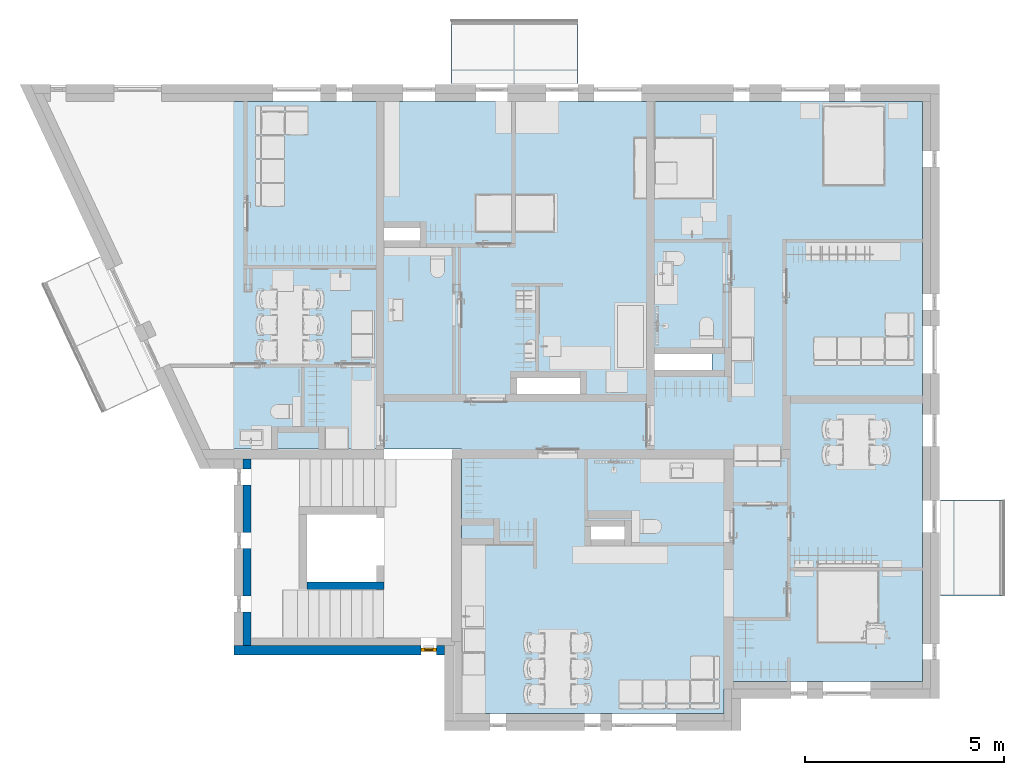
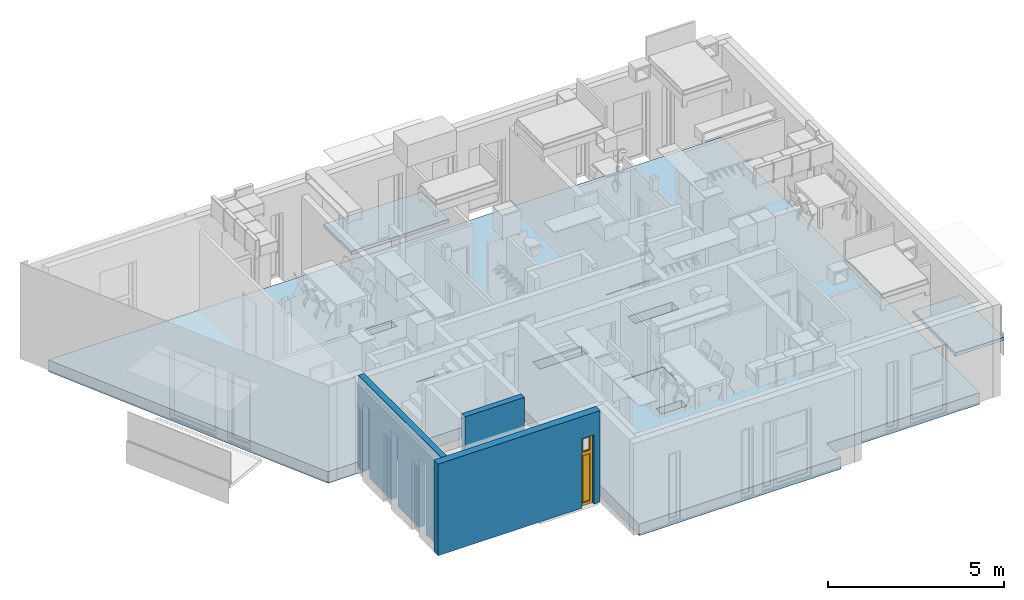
# One storey, part 2 of 68: 3 slabs, 3 walls, 1 window, 14 openings.
"""IFC2X3 building model written with IfcOpenShell, lengths in millimetres."""

from ifc_helpers import new_model, entity, si_unit, converted_unit, direction, frame, frame_2d, origin, origin_2d_with_axis, place, context, subcontext, project, spatial, polyline, rectangle, outline, extrude, clip, bounded_halfspace, faceted_brep, source, transform, mapped, material, material_list, layer, layer_set, layer_usage, type_object, type_shapes, element, fill, save


model = new_model("IFC2X3")

# Units and contexts
model_context = context("Model", 3, precision=0.01, world=origin(), true_north=direction((6.123233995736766e-17, 1.0)))
plan_context = context("Plan", 3, precision=0.01, world=origin(), true_north=direction((6.123233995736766e-17, 1.0)))
body_context = subcontext(model_context, "Body", "Model", "MODEL_VIEW")
ifc_project = project(units=[si_unit("LENGTHUNIT", "METRE", prefix="MILLI"), converted_unit("PLANEANGLEUNIT", "DEGREE", entity("IfcPlaneAngleMeasure", 0.017453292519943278), si_unit("PLANEANGLEUNIT", "RADIAN"), dimensions=[0, 0, 0, 0, 0, 0, 0]), si_unit("AREAUNIT", "SQUARE_METRE")], contexts=[model_context, plan_context])

# Site, building, storey
site_placement = place(None, origin())
site = spatial("IfcSite", under=ifc_project, at=site_placement, Name="Default", CompositionType="ELEMENT")
building_placement = place(site_placement, origin())
building = spatial("IfcBuilding", under=site, at=building_placement, CompositionType="ELEMENT")
storey_placement = place(building_placement, frame((0.0, 0.0, 6295.0)))
storey = spatial("IfcBuildingStorey", under=building, at=storey_placement, Name="3K", CompositionType="ELEMENT", Elevation=6294.999999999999)

# Slab, openings
ifc_material_1 = material(Name="_K. Betoon. Armeeritud. Kohtvalu")
ifc_layer_1 = layer(ifc_material_1, 80.0)
ifc_material_2 = material(Name="_K. Soojustus. Mineraalvill")
ifc_layer_2 = layer(ifc_material_2, 30.0)
ifc_material_3 = material(Name="_K. Soojustus. EPS")
ifc_layer_3 = layer(ifc_material_3, 25.0)
ifc_material_4 = material(Name="_K. Betoon. Armeeritud. Monteeritav")
ifc_layer_4 = layer(ifc_material_4, 265.0)
ifc_layer_set_1 = layer_set([ifc_layer_1, ifc_layer_2, ifc_layer_3, ifc_layer_4], Name="Floor:VL-01-A")
ifc_layer_usage_1 = layer_usage(ifc_layer_set_1, "AXIS3", "POSITIVE", 0.0)
slab_type_1 = type_object("IfcSlabType", Name="Floor:VL-01-A", PredefinedType="FLOOR", material=ifc_layer_set_1)
slab_1_placement = place(storey_placement, frame((-5142.069995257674, 0.0, -420.0)))
slab_1 = element("IfcSlab", 1, at=slab_1_placement, inside=storey, type_object=slab_type_1, material=ifc_layer_usage_1, Name="Floor:VL-01-A", ObjectType="Floor:VL-01-A", PredefinedType="FLOOR", context=body_context, shape_type="SweptSolid", body=[
    extrude(outline(polyline([(-11021.034997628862, 7700.0), (-11021.034997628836, -6900.0), (-6021.034997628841, -6900.0), (-6021.034997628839, -7700.0), (578.9699415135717, -7700.0), (578.9699415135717, -1050.0000405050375), (6919.47248114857, -1050.0000405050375), (11021.034997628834, 7700.0), (-11021.034997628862, 7700.0)])), frame((11021.034997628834, 7700.0, 400.0), z_axis=(0.0, 0.0, -1.0), x_axis=(-1.0, 0.0, 0.0)), (0.0, 0.0, 1.0), 400.0),
])
opening_1_placement = place(slab_1_placement, origin())
element("IfcOpeningElement", 2, at=opening_1_placement, cuts=slab_1, Name="Floor:VL-01-A", ObjectType="Opening", context=body_context, shape_type="SweptSolid", body=[
    extrude(rectangle(XDim=319.99999999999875, YDim=839.9999999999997, at=origin_2d_with_axis()), frame((14122.069995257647, 4540.0, 0.0), z_axis=(0.0, 0.0, 1.0), x_axis=(0.0, 1.0, 0.0)), (0.0, 0.0, 1.0), 400.0),
])
opening_2_placement = place(slab_1_placement, origin())
element("IfcOpeningElement", 3, at=opening_2_placement, cuts=slab_1, Name="Floor:VL-01-A", ObjectType="Opening", context=body_context, shape_type="SweptSolid", body=[
    extrude(rectangle(XDim=400.0, YDim=1589.999999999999, at=frame_2d((0.0, 5.684341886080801e-13), x_axis=(1.0, 0.0))), frame((12627.069995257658, 8240.0, 0.0), z_axis=(0.0, 0.0, 1.0), x_axis=(0.0, 1.0, 0.0)), (0.0, 0.0, 1.0), 400.0),
])
opening_3_placement = place(slab_1_placement, origin())
element("IfcOpeningElement", 4, at=opening_3_placement, cuts=slab_1, Name="Floor:VL-01-A", ObjectType="Opening", context=body_context, shape_type="SweptSolid", body=[
    extrude(rectangle(XDim=400.0, YDim=1449.9999999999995, at=origin_2d_with_axis()), frame((16017.069995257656, 8840.0, 0.0), z_axis=(0.0, 0.0, 1.0), x_axis=(0.0, 1.0, 0.0)), (0.0, 0.0, 1.0), 400.0),
])
opening_4_placement = place(slab_1_placement, origin())
element("IfcOpeningElement", 5, at=opening_4_placement, cuts=slab_1, Name="Floor:VL-01-A", ObjectType="Opening", context=body_context, shape_type="SweptSolid", body=[
    extrude(rectangle(XDim=310.000000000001, YDim=900.0000000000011, at=frame_2d((1.0942358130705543e-12, 0.0), x_axis=(1.0, 0.0))), frame((8942.06999525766, 12055.0, 0.0), z_axis=(0.0, 0.0, 1.0), x_axis=(0.0, 1.0, 0.0)), (0.0, 0.0, 1.0), 400.0),
])
opening_5_placement = place(slab_1_placement, frame((5142.069995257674, 0.0, 400.0)))
element("IfcOpeningElement", 6, at=opening_5_placement, cuts=slab_1, Name="Floor:VL-01-A", ObjectType="Opening", context=body_context, shape_type="SweptSolid", body=[
    extrude(outline(polyline([(-466.75161625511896, -6.916666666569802), (1250.2548487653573, -6.916666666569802), (-316.7516162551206, 6.916666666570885), (-466.75161625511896, 6.916666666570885), (-466.75161625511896, -6.916666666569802)])), frame((3811.7451512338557, 8040.0, -6.916666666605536), z_axis=(0.0, 1.0, 0.0), x_axis=(1.0, 0.0, 0.0)), (0.0, 0.0, 1.0), 1200.0),
])
opening_6_placement = place(slab_1_placement, frame((5142.069995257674, 0.0, 400.0)))
element("IfcOpeningElement", 7, at=opening_6_placement, cuts=slab_1, Name="Floor:VL-01-A", ObjectType="Opening", context=body_context, shape_type="SweptSolid", body=[
    extrude(outline(polyline([(-465.4999999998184, -6.916666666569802), (1246.4999999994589, -6.916666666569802), (-315.49999999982, 6.916666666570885), (-465.4999999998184, 6.916666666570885), (-465.4999999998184, -6.916666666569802)])), frame((10615.499999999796, 9210.0, -6.916666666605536), z_axis=(0.0, 1.0, 0.0), x_axis=(1.0, 0.0, 0.0)), (0.0, 0.0, 1.0), 1079.9999999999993),
])
opening_7_placement = place(slab_1_placement, frame((5142.069995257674, 0.0, 400.0)))
element("IfcOpeningElement", 8, at=opening_7_placement, cuts=slab_1, Name="Floor:VL-01-A", ObjectType="Opening", context=body_context, shape_type="SweptSolid", body=[
    extrude(outline(polyline([(-361.9999898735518, -6.916666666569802), (935.999969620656, -6.916666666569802), (-211.9999898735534, 6.916666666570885), (-361.9999898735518, 6.916666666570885), (-361.9999898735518, -6.916666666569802)])), frame((8483.0, 6037.9999696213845, -6.916666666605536), z_axis=(1.0, 0.0, 0.0), x_axis=(0.0, -1.0, 0.0)), (0.0, 0.0, 1.0), 1299.999999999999),
])

# Slabs
slab_type_2 = type_object("IfcSlabType", Name="HR_Slab_Balcony_v3:Default", PredefinedType="FLOOR", material=ifc_material_4)
slab_2_placement = place(storey_placement, frame((0.0, 0.0, -225.50023803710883)))
element("IfcSlab", 9, at=slab_2_placement, inside=storey, type_object=slab_type_2, Name="HR_Slab_Balcony_v3:Default", ObjectType="HR_Slab_Balcony_v3:Default", PredefinedType="FLOOR", context=body_context, shape_type="SweptSolid", body=[
    extrude(outline(polyline([(-636.2215697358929, 62.61096566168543), (-637.2171002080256, -42.38431479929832), (-604.7185610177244, -42.69245518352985), (-594.6241980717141, -32.78771708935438), (-579.6248722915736, -32.92993572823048), (-569.7201341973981, -43.02429867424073), (944.7117920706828, -57.38364057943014), (945.849541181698, 62.610965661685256), (865.8531370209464, 63.36946506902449), (865.7119652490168, 62.61096566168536), (-636.2215697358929, 62.61096566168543)])), frame((5031.41658844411, 16795.213397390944, 48.424019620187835), z_axis=(-1.0, 0.0, 0.0), x_axis=(0.0, -0.9999550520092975, 0.00948124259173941)), (0.0, 0.0, -1.0), 3194.999999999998),
])
slab_3_placement = place(storey_placement, frame((0.0, 0.0, -225.50023803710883)))
element("IfcSlab", 10, at=slab_3_placement, inside=storey, type_object=slab_type_2, Name="HR_Slab_Balcony_v3:Default", ObjectType="HR_Slab_Balcony_v3:Default", PredefinedType="FLOOR", context=body_context, shape_type="SweptSolid", body=[
    extrude(outline(polyline([(-945.2133973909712, -71.57598037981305), (-865.2133973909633, -71.57598037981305), (-865.0794234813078, -70.81617658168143), (636.7866026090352, -56.575980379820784), (636.7866026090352, 48.42401962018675), (604.2866026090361, 48.42401962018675), (594.2866026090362, 38.42401962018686), (579.2866026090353, 38.42401962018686), (569.2866026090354, 48.42401962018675), (-945.2133973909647, 48.42401962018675), (-945.2133973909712, -71.57598037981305)])), frame((18295.213397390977, 2952.68658823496, 48.42401962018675), z_axis=(0.0, 1.0, 0.0), x_axis=(1.0, 0.0, 0.0)), (0.0, 0.0, 1.0), 2418.0000000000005),
])

# Wall, openings
ifc_material_5 = material(Name="_K. Väisviimistlus. Krohv. Valge")
ifc_layer_5 = layer(ifc_material_5, 5.0)
ifc_material_6 = material(Name="_K. Müüritis. Väikeplokk. Betoon-õõnesplokk")
ifc_layer_6 = layer(ifc_material_6, 190.00000000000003)
ifc_layer_7 = layer(ifc_material_5, 5.0)
ifc_layer_set_2 = layer_set([ifc_layer_5, ifc_layer_6, ifc_layer_7], Name="Basic Wall:SS-01. 190")
ifc_layer_usage_2 = layer_usage(ifc_layer_set_2, "AXIS2", "NEGATIVE", 100.00000000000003)
wall_type_1 = type_object("IfcWallType", Name="Basic Wall:SS-01. 190", PredefinedType="STANDARD", material=ifc_layer_set_2)
wall_1_placement = place(storey_placement, frame((-100.0, 1710.0, 0.0), z_axis=(0.0, 0.0, 1.0), x_axis=(0.0, 1.0, 0.0)))
wall_1 = element("IfcWallStandardCase", 11, at=wall_1_placement, inside=storey, type_object=wall_type_1, material=ifc_layer_usage_2, Name="Basic Wall:SS-01. 190", ObjectType="Basic Wall:SS-01. 190", context=body_context, shape_type="Clipping", body=[
    clip(clip(extrude(rectangle(XDim=4694.999959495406, YDim=200.00000000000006, at=frame_2d((2347.499979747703, 2.1316282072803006e-14), x_axis=(-1.0, 0.0))), origin(), (0.0, 0.0, 1.0), 3169.999999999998), bounded_halfspace(frame((4694.999959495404, 90.0, 2974.999801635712), z_axis=(0.0, -1.0, 0.0), x_axis=(1.0, 0.0, 0.0)), True, frame((4694.999959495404, 90.0, 2974.999801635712), z_axis=(0.0, -1.0, 0.0), x_axis=(1.0, 0.0, 0.0)), polyline([(0.0, 0.0), (0.0, 195.000198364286), (-904.9999594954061, 195.000198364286), (-1304.9999594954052, 195.000198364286), (-2504.999959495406, 195.000198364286), (-2904.999959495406, 195.000198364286), (-4104.999959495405, 195.000198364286), (-4504.999959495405, 195.000198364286), (-4694.999959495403, 195.000198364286), (-4694.999959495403, 0.0), (0.0, 0.0)]))), bounded_halfspace(frame((0.0, 90.0, 2974.999801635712), z_axis=(0.0, 0.0, -1.0), x_axis=(0.0, 1.0, 0.0)), True, frame((0.0, 90.0, 2974.999801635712), z_axis=(0.0, 0.0, -1.0), x_axis=(0.0, 1.0, 0.0)), polyline([(0.0, 0.0), (10.0, 0.0), (10.0, 4694.999959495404), (0.0, 4694.999959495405), (0.0, 0.0)]))),
])
opening_8_placement = place(wall_1_placement, frame((-1710.0, -100.0, 0.0)))
element("IfcOpeningElement", 12, at=opening_8_placement, cuts=wall_1, Name="Basic Wall:SS-01. 190", ObjectType="Opening", context=body_context, shape_type="Brep", body=[
    faceted_brep([(2949.999959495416, 450.0, 2400.0), (2949.9999594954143, -244.0, 2400.0), (2949.9999594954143, -244.0, 0.0), (2949.999959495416, 340.0, 0.0), (2949.999959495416, 350.0, 0.0), (2949.999959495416, 450.0, 0.0), (2549.999959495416, 450.0, 2400.0), (2549.9999594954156, -244.0, 2400.0), (2549.999959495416, 450.0, 0.0), (2549.999959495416, 350.0, 0.0), (2549.999959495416, 340.0, 0.0), (2549.9999594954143, -244.0, 0.0)], [[[0, 1, 2, 3, 4, 5]], [[6, 7, 1, 0]], [[8, 9, 10, 11, 7, 6]], [[5, 4, 3, 2, 11, 10, 9, 8]], [[6, 0, 5, 8]], [[7, 11, 2, 1]]]),
])
opening_9_placement = place(wall_1_placement, frame((-1710.0, -100.0, 0.0)))
element("IfcOpeningElement", 13, at=opening_9_placement, cuts=wall_1, Name="Basic Wall:SS-01. 190", ObjectType="Opening", context=body_context, shape_type="Brep", body=[
    faceted_brep([(4549.999959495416, 450.0, 2400.0), (4549.999959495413, -244.0, 2400.0), (4549.999959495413, -244.0, 0.0), (4549.999959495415, 340.0, 0.0), (4549.999959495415, 350.0, 0.0), (4549.999959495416, 450.0, 0.0), (4149.999959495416, 450.0, 2400.0), (4149.999959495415, -244.0, 2400.0), (4149.999959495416, 450.0, 0.0), (4149.999959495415, 350.0, 0.0), (4149.999959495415, 340.0, 0.0), (4149.999959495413, -244.0, 0.0)], [[[0, 1, 2, 3, 4, 5]], [[6, 7, 1, 0]], [[8, 9, 10, 11, 7, 6]], [[5, 4, 3, 2, 11, 10, 9, 8]], [[6, 0, 5, 8]], [[7, 11, 2, 1]]]),
])
opening_10_placement = place(wall_1_placement, frame((-1710.0, -100.0, 0.0)))
element("IfcOpeningElement", 14, at=opening_10_placement, cuts=wall_1, Name="Basic Wall:SS-01. 190", ObjectType="Opening", context=body_context, shape_type="Brep", body=[
    faceted_brep([(6149.999959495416, 450.0, 2400.0), (6149.999959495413, -244.0, 2400.0), (6149.999959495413, -244.0, 0.0), (6149.999959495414, 340.0, 0.0), (6149.999959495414, 350.0, 0.0), (6149.999959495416, 450.0, 0.0), (5749.999959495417, 450.0, 2400.0), (5749.999959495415, -244.0, 2400.0), (5749.999959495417, 450.0, 0.0), (5749.999959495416, 350.0, 0.0), (5749.999959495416, 340.0, 0.0), (5749.999959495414, -244.0, 0.0)], [[[0, 1, 2, 3, 4, 5]], [[6, 7, 1, 0]], [[8, 9, 10, 11, 7, 6]], [[5, 4, 3, 2, 11, 10, 9, 8]], [[6, 0, 5, 8]], [[7, 11, 2, 1]]]),
])
opening_11_placement = place(wall_1_placement, frame((-1710.0, -100.0, 3170.000076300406)))
element("IfcOpeningElement", 15, at=opening_11_placement, cuts=wall_1, Name="Basic Wall:SS-01. 190", ObjectType="Opening", context=body_context, shape_type="Brep", body=[
    faceted_brep([(2300.0, 450.0, 2400.0), (2300.0, -244.0, 2400.0), (2300.0, -244.0, 0.0), (2300.0, 340.0, 0.0), (2300.0, 350.0, 0.0), (2300.0, 450.0, 0.0), (1900.0, 450.0, 2400.0), (1900.0, -244.0, 2400.0), (1900.0, 450.0, 0.0), (1900.0, 350.0, 0.0), (1900.0, 340.0, 0.0), (1900.0, -244.0, 0.0)], [[[0, 1, 2, 3, 4, 5]], [[6, 7, 1, 0]], [[8, 9, 10, 11, 7, 6]], [[5, 4, 3, 2, 11, 10, 9, 8]], [[6, 0, 5, 8]], [[7, 11, 2, 1]]]),
])
opening_12_placement = place(wall_1_placement, frame((-1710.0, -100.0, 3170.000076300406)))
element("IfcOpeningElement", 16, at=opening_12_placement, cuts=wall_1, Name="Basic Wall:SS-01. 190", ObjectType="Opening", context=body_context, shape_type="Brep", body=[
    faceted_brep([(3900.0, 450.0, 2400.0), (3900.0, -244.0, 2400.0), (3900.0, -244.0, 0.0), (3900.0, 340.0, 0.0), (3900.0, 350.0, 0.0), (3900.0, 450.0, 0.0), (3500.0, 450.0, 2400.0), (3500.0, -244.0, 2400.0), (3500.0, 450.0, 0.0), (3500.0, 350.0, 0.0), (3500.0, 340.0, 0.0), (3500.0, -244.0, 0.0)], [[[0, 1, 2, 3, 4, 5]], [[6, 7, 1, 0]], [[8, 9, 10, 11, 7, 6]], [[5, 4, 3, 2, 11, 10, 9, 8]], [[6, 0, 5, 8]], [[7, 11, 2, 1]]]),
])
opening_13_placement = place(wall_1_placement, frame((-1710.0, -100.0, 3170.000076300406)))
element("IfcOpeningElement", 17, at=opening_13_placement, cuts=wall_1, Name="Basic Wall:SS-01. 190", ObjectType="Opening", context=body_context, shape_type="Brep", body=[
    faceted_brep([(5500.0, 450.0, 2400.0), (5500.0, -244.0, 2400.0), (5500.0, -244.0, 0.0), (5500.0, 340.0, 0.0), (5500.0, 350.0, 0.0), (5500.0, 450.0, 0.0), (5100.0, 450.0, 2400.0), (5100.0, -244.0, 2400.0), (5100.0, 450.0, 0.0), (5100.0, 350.0, 0.0), (5100.0, 340.0, 0.0), (5100.0, -244.0, 0.0)], [[[0, 1, 2, 3, 4, 5]], [[6, 7, 1, 0]], [[8, 9, 10, 11, 7, 6]], [[5, 4, 3, 2, 11, 10, 9, 8]], [[6, 0, 5, 8]], [[7, 11, 2, 1]]]),
])

# Wall
ifc_layer_8 = layer(ifc_material_6, 190.00000000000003)
ifc_layer_set_3 = layer_set([ifc_layer_8], Name="Basic Wall:Columbia 190mm")
ifc_layer_usage_3 = layer_usage(ifc_layer_set_3, "AXIS2", "NEGATIVE", 95.00000000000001)
wall_type_2 = type_object("IfcWallType", Name="Basic Wall:Columbia 190mm", PredefinedType="STANDARD", material=ifc_layer_set_3)
wall_2_placement = place(storey_placement, frame((3349.9935349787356, 3204.993855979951, 0.0), z_axis=(0.0, 0.0, 1.0), x_axis=(-1.0, 0.0, 0.0)))
element("IfcWallStandardCase", 18, at=wall_2_placement, inside=storey, type_object=wall_type_2, material=ifc_layer_usage_3, Name="Basic Wall:Columbia 190mm", ObjectType="Basic Wall:Columbia 190mm", context=body_context, shape_type="SweptSolid", body=[
    extrude(rectangle(XDim=1949.9999999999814, YDim=190.0000000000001, at=frame_2d((974.9999999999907, 0.0), x_axis=(-1.0, 0.0))), origin(), (0.0, 0.0, 1.0), 3169.999999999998),
])

# Wall, opening, window
ifc_layer_9 = layer(ifc_material_5, 10.0)
ifc_material_7 = material(Name="_K. Soojustus. EPS Silver")
ifc_layer_10 = layer(ifc_material_7, 230.0)
ifc_layer_set_4 = layer_set([ifc_layer_9, ifc_layer_10], Name="Basic Wall:VS-01")
ifc_layer_usage_4 = layer_usage(ifc_layer_set_4, "AXIS2", "NEGATIVE", 120.0)
wall_type_3 = type_object("IfcWallType", Name="Basic Wall:VS-01", PredefinedType="STANDARD", material=ifc_layer_set_4)
wall_3_placement = place(storey_placement, frame((4870.0, 1590.0, 0.0), z_axis=(0.0, 0.0, 1.0), x_axis=(-1.0, 0.0, 0.0)))
wall_3 = element("IfcWallStandardCase", 19, at=wall_3_placement, inside=storey, type_object=wall_type_3, material=ifc_layer_usage_4, Name="Basic Wall:VS-01", ObjectType="Basic Wall:VS-01", context=body_context, shape_type="SweptSolid", body=[
    extrude(rectangle(XDim=5300.000000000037, YDim=240.0000000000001, at=frame_2d((2650.0000000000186, -6.394884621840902e-14), x_axis=(-1.0, 0.0))), origin(), (0.0, 0.0, 1.0), 3169.999999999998),
])
opening_14_placement = place(wall_3_placement, frame((4870.0, 1590.0, 0.0), z_axis=(0.0, 0.0, 1.0), x_axis=(-1.0, 0.0, 0.0)))
opening_14 = element("IfcOpeningElement", 20, at=opening_14_placement, cuts=wall_3, Name="Basic Wall:VS-01", ObjectType="Opening", context=body_context, shape_type="Brep", body=[
    faceted_brep([(4270.0, 1450.0, 2400.0), (4270.0, 2144.0, 2400.0), (4270.0, 2144.0, 0.0), (4270.0, 1560.0, 0.0), (4270.0, 1550.0, 0.0), (4270.0, 1450.0, 0.0), (4670.0, 1450.0, 2400.0), (4670.0, 2144.0, 2400.0), (4670.0, 1450.0, 0.0), (4670.0, 1550.0, 0.0), (4670.0, 1560.0, 0.0), (4670.0, 2144.0, 0.0)], [[[0, 1, 2, 3, 4, 5]], [[6, 7, 1, 0]], [[8, 9, 10, 11, 7, 6]], [[5, 4, 3, 2, 11, 10, 9, 8]], [[6, 0, 5, 8]], [[7, 11, 2, 1]]]),
])
ifc_material_8 = material(Name="_K. Avatäited. Raam. PVC. Valge")
ifc_material_9 = material(Name="_K. Klaas. Pakett")
ifc_material_10 = material(Name="_K. Avatäited. Raam. PVC. RAL9005")
ifc_material_list = material_list([ifc_material_8, ifc_material_9, ifc_material_10])
window_style = type_object("IfcWindowStyle", Name="HR_Window_Generic_Rectangle_1x2:A-15.400x2400.ma", ConstructionType="NOTDEFINED", OperationType="NOTDEFINED", ParameterTakesPrecedence=False, Sizeable=False, material=ifc_material_list)
shared_shape = source(origin(), body_context, "Body", "Brep", [
    faceted_brep([(88.0, -194.0, 1739.0), (312.0, -194.0, 1739.0), (312.0, -194.0, 108.0), (88.0, -194.0, 108.0), (342.0, -194.0, 1769.0), (58.0, -194.0, 1769.0), (58.0, -194.0, 78.0), (342.0, -194.0, 78.0), (88.0, -159.0, 1739.0), (88.0, -159.0, 108.0), (312.0, -159.0, 108.0), (342.0, -159.0, 1769.0), (342.0, -159.0, 78.0), (58.0, -159.0, 78.0), (58.0, -159.0, 1769.0), (312.0, -159.0, 1739.0)], [[[0, 1, 2, 3], [4, 5, 6, 7]], [[8, 0, 3, 9]], [[9, 3, 2, 10]], [[11, 12, 13, 14], [15, 8, 9, 10]], [[1, 15, 10, 2]], [[6, 5, 14, 13]], [[7, 6, 13, 12]], [[4, 7, 12, 11]], [[15, 1, 0, 8]], [[5, 4, 11, 14]]], outer=[[False, True], [True], [True], [True, False], [True], [True], [True], [True], [True], [True]]),
    faceted_brep([(342.0, -159.0, 1769.0), (58.0, -159.0, 1769.0), (58.0, -159.0, 78.0), (342.0, -159.0, 78.0), (58.0, -134.0, 1769.0), (58.0, -134.0, 78.0), (342.0, -134.0, 78.0), (342.0, -134.0, 1769.0)], [[[0, 1, 2, 3]], [[2, 1, 4, 5]], [[3, 2, 5, 6]], [[0, 3, 6, 7]], [[7, 6, 5, 4]], [[1, 0, 7, 4]]]),
    faceted_brep([(58.0, -134.0, 2342.0), (58.0, -134.0, 1831.0), (342.0, -134.0, 1831.0), (342.0, -134.0, 2342.0), (88.0, -134.0, 2312.0), (312.0, -134.0, 2312.0), (312.0, -134.0, 1861.0), (88.0, -134.0, 1861.0), (342.0, -134.0, 1769.0), (342.0, -134.0, 78.0), (342.0, -194.0, 78.0), (342.0, -194.0, 1769.0), (58.0, -134.0, 78.0), (58.0, -134.0, 1769.0), (58.0, -194.0, 1769.0), (58.0, -194.0, 78.0), (312.0, -100.0, 108.0), (88.0, -100.0, 108.0), (88.0, -134.0, 108.0), (312.0, -134.0, 108.0), (88.0, -100.0, 1739.0), (88.0, -134.0, 1739.0), (312.0, -100.0, 1739.0), (312.0, -134.0, 1739.0), (400.0, -194.0, 2400.0), (0.0, -194.0, 2400.0), (0.0, -194.0, 30.0), (400.0, -194.0, 30.0), (58.0, -194.0, 2342.0), (342.0, -194.0, 2342.0), (342.0, -194.0, 1831.0), (58.0, -194.0, 1831.0), (0.0, -100.0, 2400.0), (0.0, -100.0, 30.0), (0.0, -110.0, 30.0), (0.0, -110.0, 0.0), (0.0, -184.0, 0.0), (0.0, -184.0, 30.0), (400.0, -184.0, 30.0), (400.0, -100.0, 2400.0), (400.0, -184.0, 0.0), (400.0, -110.0, 0.0), (400.0, -110.0, 30.0), (400.0, -100.0, 30.0), (88.0, -100.0, 2312.0), (88.0, -100.0, 1861.0), (312.0, -100.0, 1861.0), (312.0, -100.0, 2312.0)], [[[0, 1, 2, 3], [4, 5, 6, 7]], [[8, 9, 10, 11]], [[12, 13, 14, 15]], [[9, 12, 15, 10]], [[16, 17, 18, 19]], [[17, 20, 21, 18]], [[22, 16, 19, 23]], [[11, 10, 15, 14], [24, 25, 26, 27], [28, 29, 30, 31]], [[25, 32, 33, 34, 35, 36, 37, 26]], [[37, 38, 27, 26]], [[39, 24, 27, 38, 40, 41, 42, 43]], [[17, 16, 22, 20], [32, 39, 43, 33], [44, 45, 46, 47]], [[42, 34, 33, 43]], [[34, 42, 41, 35]], [[35, 41, 40, 36]], [[38, 37, 36, 40]], [[25, 24, 39, 32]], [[44, 47, 5, 4]], [[47, 46, 6, 5]], [[45, 44, 4, 7]], [[0, 3, 29, 28]], [[3, 2, 30, 29]], [[13, 8, 11, 14]], [[1, 0, 28, 31]], [[2, 1, 31, 30]], [[46, 45, 7, 6]], [[20, 22, 23, 21]], [[9, 8, 13, 12], [19, 18, 21, 23]]], outer=[[True, False], [True], [True], [True], [True], [True], [True], [False, True, False], [True], [True], [True], [False, True, False], [True], [True], [True], [True], [True], [True], [True], [True], [True], [True], [True], [True], [True], [True], [True], [True, False]]),
])
type_shapes(window_style, [shared_shape])
window_placement = place(opening_14_placement, frame((4670.0, 1450.0, 0.0), z_axis=(0.0, 0.0, 1.0), x_axis=(-1.0, 0.0, 0.0)))
window = element("IfcWindow", 21, at=window_placement, inside=storey, type_object=window_style, material=ifc_material_list, Name="HR_Window_Generic_Rectangle_1x2:A-15.400x2400.ma", ObjectType="HR_Window_Generic_Rectangle_1x2:A-15.400x2400.ma", OverallHeight=2465.0000000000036, OverallWidth=400.00000000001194, context=body_context, shape_type="MappedRepresentation", body=[
    mapped(shared_shape, transform((0.0, 0.0, 0.0), scale=1.0)),
])
fill(opening_14, window)

save(model, "model.ifc")
